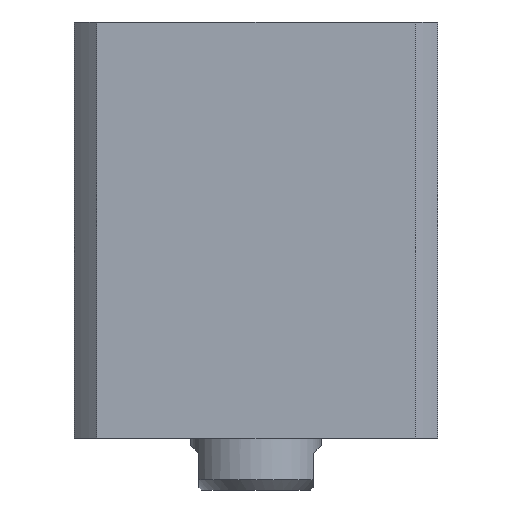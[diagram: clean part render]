
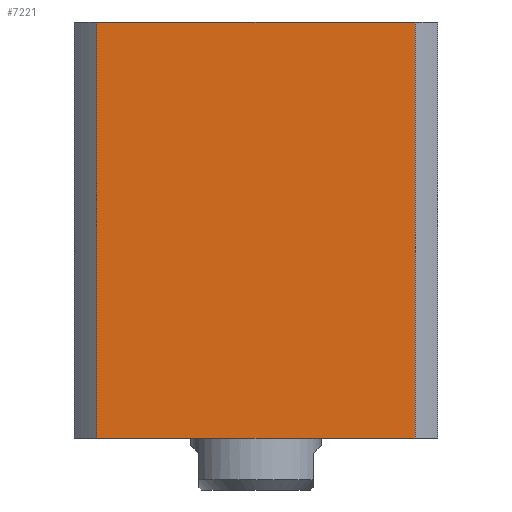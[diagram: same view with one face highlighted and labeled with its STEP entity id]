
A CAD part, left-side view. The second image highlights one B-rep face of the part: STEP entity #7221.
In plain terms, the highlighted planar face has unit normal (-1, 0, 0) as drawn and (0, 1, 0) by its records, which use the part's own axes.
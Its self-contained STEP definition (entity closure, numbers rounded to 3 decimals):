
#395 = EDGE_CURVE ( 'NONE', #2732, #9819, #586, .T. ) ;
#586 = LINE ( 'NONE', #7338, #2900 ) ;
#1000 = CARTESIAN_POINT ( 'NONE',  ( 30.615, 35., 80. ) ) ;
#2015 = VECTOR ( 'NONE', #7030, 1000. ) ;
#2265 = LINE ( 'NONE', #8672, #2015 ) ;
#2326 = CARTESIAN_POINT ( 'NONE',  ( 30.615, 35., 0. ) ) ;
#2732 = VERTEX_POINT ( 'NONE', #2326 ) ;
#2738 = VERTEX_POINT ( 'NONE', #9346 ) ;
#2900 = VECTOR ( 'NONE', #8747, 1000. ) ;
#3009 = LINE ( 'NONE', #7476, #6662 ) ;
#3930 = AXIS2_PLACEMENT_3D ( 'NONE', #7837, #9424, #4772 ) ;
#4739 = PLANE ( 'NONE',  #3930 ) ;
#4772 = DIRECTION ( 'NONE',  ( 0., 0., -1. ) ) ;
#4912 = DIRECTION ( 'NONE',  ( 0., 0., -1. ) ) ;
#5819 = ORIENTED_EDGE ( 'NONE', *, *, #395, .T. ) ;
#6662 = VECTOR ( 'NONE', #8255, 1000. ) ;
#7030 = DIRECTION ( 'NONE',  ( 0., 0., 1. ) ) ;
#7221 = ADVANCED_FACE ( 'NONE', ( #7375 ), #4739, .F. ) ;
#7230 = CARTESIAN_POINT ( 'NONE',  ( -30.615, 35., 300. ) ) ;
#7338 = CARTESIAN_POINT ( 'NONE',  ( -35., 35., 0. ) ) ;
#7375 = FACE_OUTER_BOUND ( 'NONE', #10085, .T. ) ;
#7476 = CARTESIAN_POINT ( 'NONE',  ( -35., 35., 80. ) ) ;
#7671 = ORIENTED_EDGE ( 'NONE', *, *, #9023, .F. ) ;
#7837 = CARTESIAN_POINT ( 'NONE',  ( -35., 35., 80. ) ) ;
#7877 = VECTOR ( 'NONE', #4912, 1000. ) ;
#8255 = DIRECTION ( 'NONE',  ( -1., 0., 0. ) ) ;
#8514 = ORIENTED_EDGE ( 'NONE', *, *, #9337, .F. ) ;
#8672 = CARTESIAN_POINT ( 'NONE',  ( 30.615, 35., 300. ) ) ;
#8747 = DIRECTION ( 'NONE',  ( -1., 0., 0. ) ) ;
#8773 = CARTESIAN_POINT ( 'NONE',  ( -30.615, 35., 0. ) ) ;
#9019 = VERTEX_POINT ( 'NONE', #1000 ) ;
#9023 = EDGE_CURVE ( 'NONE', #2738, #9819, #9946, .T. ) ;
#9337 = EDGE_CURVE ( 'NONE', #9019, #2738, #3009, .T. ) ;
#9346 = CARTESIAN_POINT ( 'NONE',  ( -30.615, 35., 80. ) ) ;
#9424 = DIRECTION ( 'NONE',  ( 0., -1., 0. ) ) ;
#9658 = EDGE_CURVE ( 'NONE', #2732, #9019, #2265, .T. ) ;
#9819 = VERTEX_POINT ( 'NONE', #8773 ) ;
#9946 = LINE ( 'NONE', #7230, #7877 ) ;
#10069 = ORIENTED_EDGE ( 'NONE', *, *, #9658, .F. ) ;
#10085 = EDGE_LOOP ( 'NONE', ( #7671, #8514, #10069, #5819 ) ) ;
